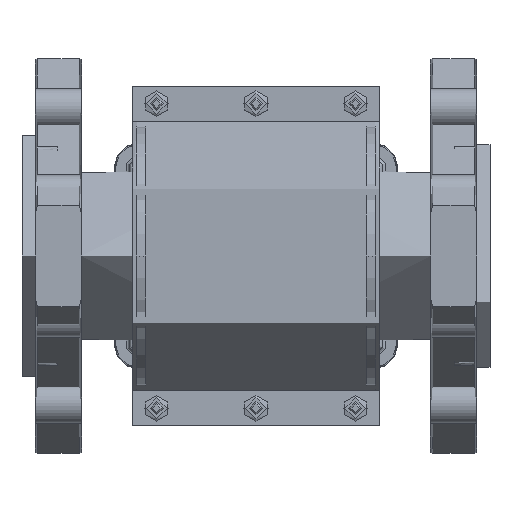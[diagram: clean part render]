
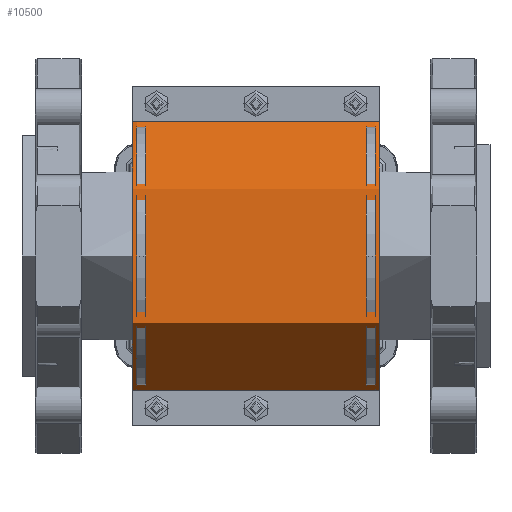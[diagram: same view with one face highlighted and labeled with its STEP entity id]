
A CAD part, front view. The second image highlights one B-rep face of the part: STEP entity #10500.
In plain terms, the highlighted cylindrical face has radius 61 mm (diameter 122 mm), a partial arc.
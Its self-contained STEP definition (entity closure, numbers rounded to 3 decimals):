
#10500=ADVANCED_FACE('',(#27887),#27889,.T.);
#27887=FACE_BOUND('',#27888,.T.);
#27888=EDGE_LOOP('',(#36731,#36732,#36733,#36734,#36735,#36736,#36737,#36738,#36739,
#36740));
#27889=CYLINDRICAL_SURFACE('',#27890,61.);
#27890=AXIS2_PLACEMENT_3D('',#27891,#27892,#27893);
#27891=CARTESIAN_POINT('',(-56.,-34.434,0.));
#27892=DIRECTION('',(1.,0.,0.));
#27893=DIRECTION('',(0.,0.,1.));
#36731=ORIENTED_EDGE('',*,*,#40823,.F.);
#36732=ORIENTED_EDGE('',*,*,#40805,.T.);
#36733=ORIENTED_EDGE('',*,*,#40842,.F.);
#36734=ORIENTED_EDGE('',*,*,#40827,.T.);
#36735=ORIENTED_EDGE('',*,*,#40737,.F.);
#36736=ORIENTED_EDGE('',*,*,#40843,.F.);
#36737=ORIENTED_EDGE('',*,*,#40729,.F.);
#36738=ORIENTED_EDGE('',*,*,#40836,.T.);
#36739=ORIENTED_EDGE('',*,*,#40844,.T.);
#36740=ORIENTED_EDGE('',*,*,#40795,.T.);
#40729=EDGE_CURVE('',#44906,#44908,#44909,.T.);
#40737=EDGE_CURVE('',#44920,#44922,#44923,.F.);
#40795=EDGE_CURVE('',#45015,#44833,#45016,.T.);
#40805=EDGE_CURVE('',#44825,#45029,#45031,.T.);
#40823=EDGE_CURVE('',#44825,#44833,#45059,.F.);
#40827=EDGE_CURVE('',#45065,#44922,#45066,.F.);
#40836=EDGE_CURVE('',#44906,#45075,#45077,.F.);
#40842=EDGE_CURVE('',#45065,#45029,#45087,.T.);
#40843=EDGE_CURVE('',#44908,#44920,#45088,.T.);
#40844=EDGE_CURVE('',#45075,#45015,#45089,.T.);
#44825=VERTEX_POINT('',#59526);
#44833=VERTEX_POINT('',#59544);
#44906=VERTEX_POINT('',#59723);
#44908=VERTEX_POINT('',#59727);
#44909=CIRCLE('',#59728,61.);
#44920=VERTEX_POINT('',#59754);
#44922=VERTEX_POINT('',#59758);
#44923=CIRCLE('',#59759,61.);
#45015=VERTEX_POINT('',#61744);
#45016=LINE('',#61745,#61746);
#45029=VERTEX_POINT('',#61776);
#45031=LINE('',#61780,#61781);
#45059=LINE('',#61922,#61923);
#45065=VERTEX_POINT('',#61938);
#45066=LINE('',#61939,#61940);
#45075=VERTEX_POINT('',#61964);
#45077=LINE('',#61968,#61969);
#45087=CIRCLE('',#61990,61.);
#45088=LINE('',#61994,#61995);
#45089=CIRCLE('',#61997,61.);
#59526=CARTESIAN_POINT('',(54.,-35.434,-60.992));
#59544=CARTESIAN_POINT('',(-54.,-35.434,-60.992));
#59723=CARTESIAN_POINT('',(-54.,-35.434,60.992));
#59727=CARTESIAN_POINT('',(-54.,-36.434,60.967));
#59728=AXIS2_PLACEMENT_3D('',#59729,#59730,#59731);
#59729=CARTESIAN_POINT('',(-54.,-34.434,0.));
#59730=DIRECTION('',(1.,0.,0.));
#59731=DIRECTION('',(0.,-0.016,1.));
#59754=CARTESIAN_POINT('',(54.,-36.434,60.967));
#59758=CARTESIAN_POINT('',(54.,-35.434,60.992));
#59759=AXIS2_PLACEMENT_3D('',#59760,#59761,#59762);
#59760=CARTESIAN_POINT('',(54.,-34.434,0.));
#59761=DIRECTION('',(1.,0.,0.));
#59762=DIRECTION('',(0.,-0.016,1.));
#61744=CARTESIAN_POINT('',(-56.,-35.434,-60.992));
#61745=CARTESIAN_POINT('',(-56.,-35.434,-60.992));
#61746=VECTOR('',#61747,1.);
#61747=DIRECTION('',(1.,0.,0.));
#61776=CARTESIAN_POINT('',(56.,-35.434,-60.992));
#61780=CARTESIAN_POINT('',(54.,-35.434,-60.992));
#61781=VECTOR('',#61782,1.);
#61782=DIRECTION('',(1.,0.,0.));
#61922=CARTESIAN_POINT('',(-54.,-35.434,-60.992));
#61923=VECTOR('',#61924,1.);
#61924=DIRECTION('',(1.,0.,0.));
#61938=CARTESIAN_POINT('',(56.,-35.434,60.992));
#61939=CARTESIAN_POINT('',(54.,-35.434,60.992));
#61940=VECTOR('',#61941,1.);
#61941=DIRECTION('',(1.,0.,0.));
#61964=CARTESIAN_POINT('',(-56.,-35.434,60.992));
#61968=CARTESIAN_POINT('',(-56.,-35.434,60.992));
#61969=VECTOR('',#61970,1.);
#61970=DIRECTION('',(1.,0.,0.));
#61990=AXIS2_PLACEMENT_3D('',#61991,#61992,#61993);
#61991=CARTESIAN_POINT('',(56.,-34.434,0.));
#61992=DIRECTION('',(1.,0.,0.));
#61993=DIRECTION('',(0.,-0.016,1.));
#61994=CARTESIAN_POINT('',(-54.,-36.434,60.967));
#61995=VECTOR('',#61996,1.);
#61996=DIRECTION('',(1.,0.,0.));
#61997=AXIS2_PLACEMENT_3D('',#61998,#61999,#62000);
#61998=CARTESIAN_POINT('',(-56.,-34.434,0.));
#61999=DIRECTION('',(1.,0.,0.));
#62000=DIRECTION('',(0.,-0.016,1.));
